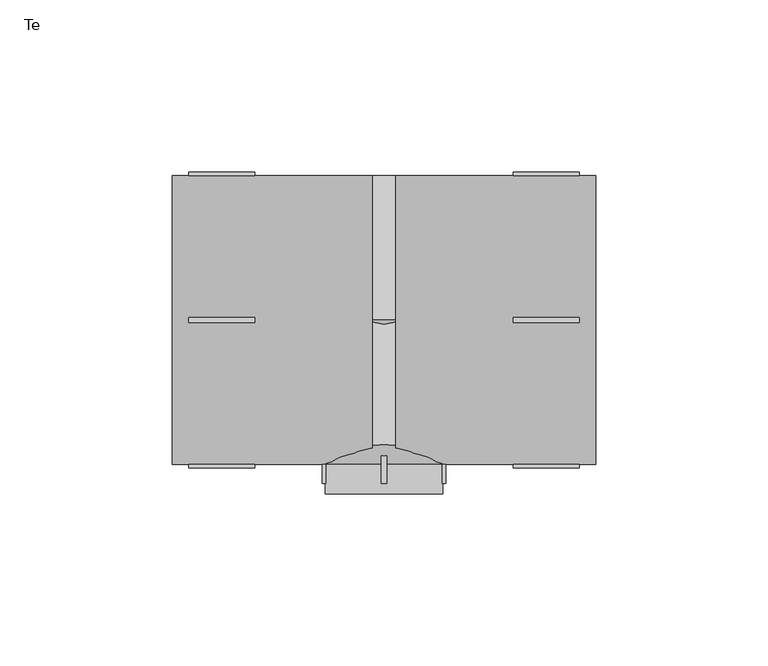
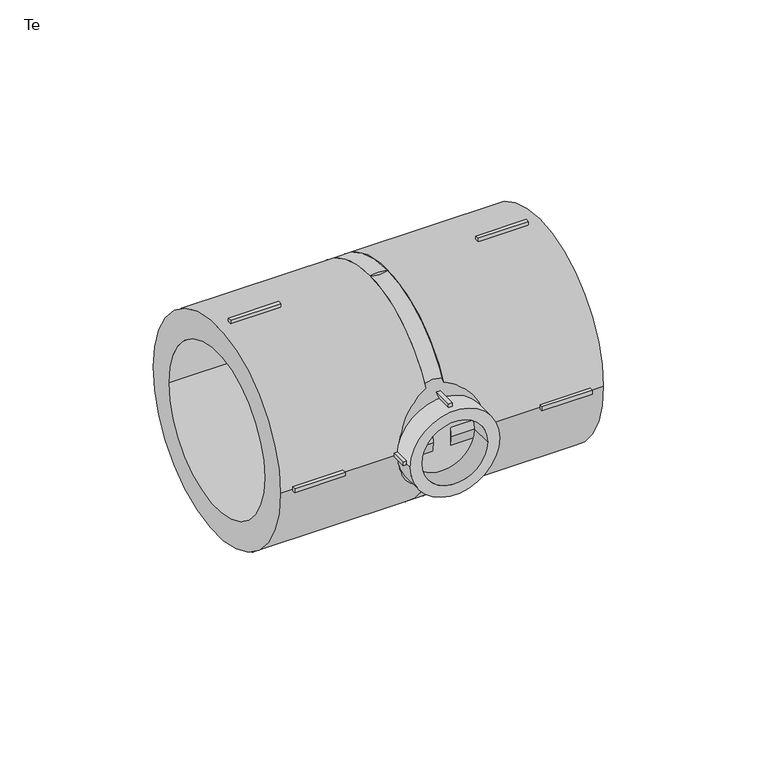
"""IFC4 building model written with IfcOpenShell, lengths in millimetres: pipe fitting geometry, EGB_VASEN_ PPR_Te WXR300_Te reducida WXR310 : Te."""

from ifc_helpers import new_model, si_unit, point, frame, origin, origin_2d, place, context, project, spatial, polyline, circle_curve, trimmed, segment, composite_curve, outline, extrude, source, transform, mapped, element, save
from ifc_brep_helpers import plane_surface, revolved_surface, advanced_brep


def te_90f17066(model_context):
    return source(origin(), model_context, "Body", "SolidModel", [
        extrude(outline(polyline([(-0.75, -35.5), (0.75, -35.5), (0.75, -47.5), (-0.75, -47.5), (-0.75, -35.5)])), frame((0.0, 0.0, 16.0), z_axis=(0.0, 0.0, 1.0), x_axis=(1.0, 0.0, 0.0)), (0.0, 0.0, 1.0), 2.0),
        extrude(outline(polyline([(-0.75, -35.5), (0.75, -35.5), (0.75, -47.5), (-0.75, -47.5), (-0.75, -35.5)])), frame((0.0, 0.0, -18.0), z_axis=(0.0, 0.0, 1.0), x_axis=(1.0, 0.0, 0.0)), (0.0, 0.0, 1.0), 2.0),
        extrude(outline(polyline([(16.0, -35.5), (18.0, -35.5), (18.0, -47.5), (16.0, -47.5), (16.0, -35.5)])), frame((0.0, 0.0, -0.75), z_axis=(0.0, 0.0, 1.0), x_axis=(1.0, 0.0, 0.0)), (0.0, 0.0, 1.0), 1.5),
        extrude(outline(polyline([(-18.0, -35.5), (-16.0, -35.5), (-16.0, -47.5), (-18.0, -47.5), (-18.0, -35.5)])), frame((0.0, 0.0, -0.75), z_axis=(0.0, 0.0, 1.0), x_axis=(1.0, 0.0, 0.0)), (0.0, 0.0, 1.0), 1.5),
        extrude(outline(polyline([(37.5, -0.75), (37.5, 0.75), (56.7, 0.75), (56.7, -0.75), (37.5, -0.75)])), frame((0.0, 0.0, 41.0), z_axis=(0.0, 0.0, 1.0), x_axis=(1.0, 0.0, 0.0)), (0.0, 0.0, 1.0), 2.0),
        extrude(outline(polyline([(37.5, -0.75), (37.5, 0.75), (56.7, 0.75), (56.7, -0.75), (37.5, -0.75)])), frame((0.0, 0.0, -43.0), z_axis=(0.0, 0.0, 1.0), x_axis=(1.0, 0.0, 0.0)), (0.0, 0.0, 1.0), 2.0),
        extrude(outline(polyline([(37.5, 41.0), (37.5, 43.0), (56.7, 43.0), (56.7, 41.0), (37.5, 41.0)])), frame((0.0, 0.0, -0.75), z_axis=(0.0, 0.0, 1.0), x_axis=(1.0, 0.0, 0.0)), (0.0, 0.0, 1.0), 1.5),
        extrude(outline(polyline([(37.5, -43.0), (37.5, -41.0), (56.7, -41.0), (56.7, -43.0), (37.5, -43.0)])), frame((0.0, 0.0, -0.75), z_axis=(0.0, 0.0, 1.0), x_axis=(1.0, 0.0, 0.0)), (0.0, 0.0, 1.0), 1.5),
        extrude(outline(polyline([(-37.5, 0.75), (-37.5, -0.75), (-56.7, -0.75), (-56.7, 0.75), (-37.5, 0.75)])), frame((0.0, 0.0, 41.0), z_axis=(0.0, 0.0, 1.0), x_axis=(1.0, 0.0, 0.0)), (0.0, 0.0, 1.0), 2.0),
        extrude(outline(polyline([(-37.5, 0.75), (-37.5, -0.75), (-56.7, -0.75), (-56.7, 0.75), (-37.5, 0.75)])), frame((0.0, 0.0, -43.0), z_axis=(0.0, 0.0, 1.0), x_axis=(1.0, 0.0, 0.0)), (0.0, 0.0, 1.0), 2.0),
        extrude(outline(polyline([(-37.5, 43.0), (-37.5, 41.0), (-56.7, 41.0), (-56.7, 43.0), (-37.5, 43.0)])), frame((0.0, 0.0, -0.75), z_axis=(0.0, 0.0, 1.0), x_axis=(1.0, 0.0, 0.0)), (0.0, 0.0, 1.0), 1.5),
        extrude(outline(polyline([(-37.5, -41.0), (-37.5, -43.0), (-56.7, -43.0), (-56.7, -41.0), (-37.5, -41.0)])), frame((0.0, 0.0, -0.75), z_axis=(0.0, 0.0, 1.0), x_axis=(1.0, 0.0, 0.0)), (0.0, 0.0, 1.0), 1.5),
        extrude(outline(composite_curve([segment(trimmed(circle_curve(origin_2d(), 17.0), [point((0.0, 17.0))], [point((0.0, -17.0))], False, "CARTESIAN"), True, "CONTINUOUS"), segment(trimmed(circle_curve(origin_2d(), 17.0), [point((0.0, -17.0))], [point((0.0, 17.0))], False, "CARTESIAN"), True, "CONTINUOUS")], self_intersect=False), holes=[composite_curve([segment(trimmed(circle_curve(origin_2d(), 12.5), [point((0.0, 12.5))], [point((0.0, -12.5))], True, "CARTESIAN"), True, "CONTINUOUS"), segment(trimmed(circle_curve(origin_2d(), 12.5), [point((0.0, -12.5))], [point((0.0, 12.5))], True, "CARTESIAN"), True, "CONTINUOUS")], self_intersect=False)]), frame((0.0, -50.5, 0.0), z_axis=(0.0, 1.0, 0.0), x_axis=(0.0, 0.0, 1.0)), (0.0, 0.0, 1.0), 8.5),
        extrude(outline(composite_curve([segment(trimmed(circle_curve(origin_2d(), 42.0), [point((-42.0, 0.0))], [point((42.0, 0.0))], False, "CARTESIAN"), True, "CONTINUOUS"), segment(trimmed(circle_curve(origin_2d(), 42.0), [point((42.0, 0.0))], [point((-42.0, 0.0))], False, "CARTESIAN"), True, "CONTINUOUS")], self_intersect=False), holes=[composite_curve([segment(trimmed(circle_curve(origin_2d(), 31.5), [point((-31.5, 0.0))], [point((31.5, 0.0))], True, "CARTESIAN"), True, "CONTINUOUS"), segment(trimmed(circle_curve(origin_2d(), 31.5), [point((31.5, 0.0))], [point((-31.5, 0.0))], True, "CARTESIAN"), True, "CONTINUOUS")], self_intersect=False)]), frame((3.4, 0.0, 0.0), z_axis=(1.0, 0.0, 0.0), x_axis=(0.0, 1.0, 0.0)), (0.0, 0.0, 1.0), 58.1),
        extrude(outline(composite_curve([segment(trimmed(circle_curve(origin_2d(), 42.0), [point((-42.0, 0.0))], [point((42.0, 0.0))], False, "CARTESIAN"), True, "CONTINUOUS"), segment(trimmed(circle_curve(origin_2d(), 42.0), [point((42.0, 0.0))], [point((-42.0, 0.0))], False, "CARTESIAN"), True, "CONTINUOUS")], self_intersect=False), holes=[composite_curve([segment(trimmed(circle_curve(origin_2d(), 31.5), [point((-31.5, 0.0))], [point((31.5, 0.0))], True, "CARTESIAN"), True, "CONTINUOUS"), segment(trimmed(circle_curve(origin_2d(), 31.5), [point((31.5, 0.0))], [point((-31.5, 0.0))], True, "CARTESIAN"), True, "CONTINUOUS")], self_intersect=False)]), frame((-61.5, 0.0, 0.0), z_axis=(1.0, 0.0, 0.0), x_axis=(0.0, 1.0, 0.0)), (0.0, 0.0, 1.0), 58.1),
        advanced_brep(
        [(42.0, 0.0, 0.0), (-42.0, 0.0, 0.0), (17.0, -42.0, 0.0), (-17.0, -42.0, 0.0)],
        [
            (0, 1, circle_curve(frame((0.0, 0.0, 0.0), z_axis=(0.0, 1.0, 0.0), x_axis=(1.0, 0.0, 0.0)), 42.0)),
            (1, 0, circle_curve(frame((0.0, 0.0, 0.0), z_axis=(0.0, 1.0, 0.0), x_axis=(-1.0, 0.0, 0.0)), 42.0)),
            (2, 3, circle_curve(frame((0.0, -42.0, 0.0), z_axis=(0.0, -1.0, 0.0), x_axis=(-1.0, 0.0, 0.0)), 17.0)),
            (3, 2, circle_curve(frame((0.0, -42.0, 0.0), z_axis=(0.0, -1.0, 0.0), x_axis=(1.0, 0.0, 0.0)), 17.0)),
            (3, 1),
            (0, 2),
        ],
        [
            plane_surface(frame((0.0, 0.0, 0.0), z_axis=(0.0, 1.0, 0.0), x_axis=(0.0, 0.0, -1.0))),
            plane_surface(frame((0.0, -42.0, 0.0), z_axis=(0.0, -1.0, 0.0), x_axis=(0.0, 0.0, -1.0))),
            revolved_surface(polyline([(-17.0, -42.0, 0.0), (-42.0, 0.0, 0.0)]), (0.0, -70.56, 0.0), (0.0, 1.0, 0.0)),
            revolved_surface(polyline([(17.0, -42.0, 0.0), (42.0, 0.0, 0.0)]), (0.0, -70.56, 0.0), (0.0, 1.0, 0.0)),
        ],
        [
            (0, [[1, 2]]),
            (1, [[3, 4]]),
            (2, [[-4, 5, -1, 6]]),
            (3, [[-3, -6, -2, -5]]),
        ],
    ),
        extrude(outline(composite_curve([segment(trimmed(circle_curve(origin_2d(), 42.0), [point((-42.0, 0.0))], [point((42.0, 0.0))], False, "CARTESIAN"), True, "CONTINUOUS"), segment(trimmed(circle_curve(origin_2d(), 42.0), [point((42.0, 0.0))], [point((-42.0, 0.0))], False, "CARTESIAN"), True, "CONTINUOUS")], self_intersect=False)), frame((-3.4, 0.0, 0.0), z_axis=(1.0, 0.0, 0.0), x_axis=(0.0, 1.0, 0.0)), (0.0, 0.0, 1.0), 6.8),
    ])


if __name__ == "__main__":
    model = new_model("IFC4")
    model_context = context("Model", 3, world=origin())
    ifc_project = project(units=[si_unit("LENGTHUNIT", "METRE", prefix="MILLI")], contexts=[model_context])
    site = spatial("IfcSite", under=ifc_project)
    building = spatial("IfcBuilding", under=site)
    placement = place(None, origin())
    te_shape = te_90f17066(model_context)
    element("IfcPipeFitting", 1, ObjectType="EGB_VASEN_ PPR_Te WXR300_Te reducida WXR310 : Te", at=placement, inside=building, context=model_context, shape_type="MappedRepresentation", body=[
        mapped(te_shape, transform((0.0, 0.0, 0.0), x_axis=(1.0, 0.0, 0.0), y_axis=(0.0, 1.0, 0.0), z_axis=(0.0, 0.0, 1.0))),
    ])
    save(model, "model.ifc")
